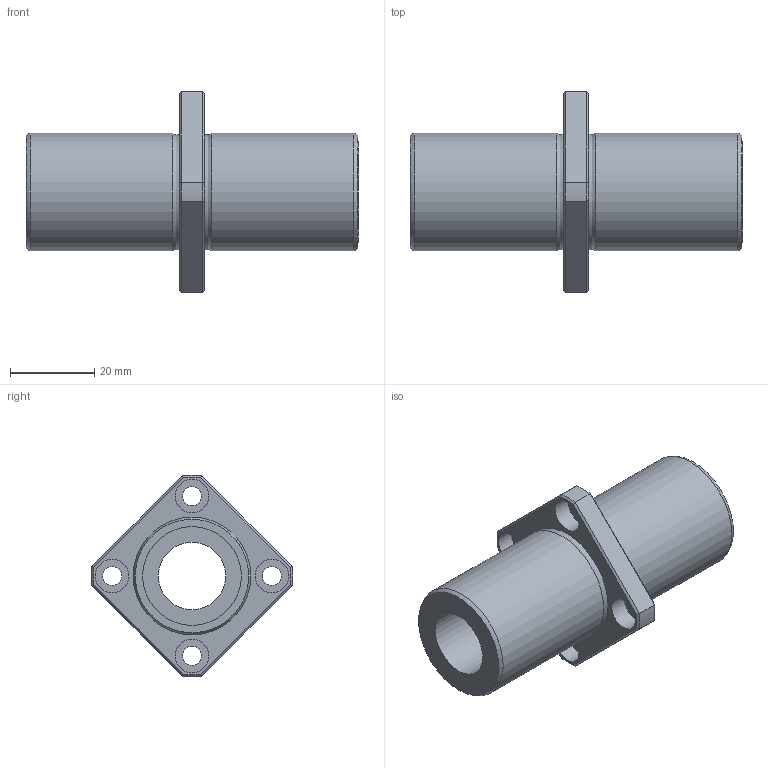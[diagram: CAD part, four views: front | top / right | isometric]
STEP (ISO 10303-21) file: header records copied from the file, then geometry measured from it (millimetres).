
FILE_DESCRIPTION((''),'2;1');
FILE_NAME('D:\製品 (図面)\カタログ用3D\メンテナンスフリー関連\STEP形式\LFDKC-MF\LFDKC16MF.stp','2010-06-01T15:42:06',('Tsuchiya'),(''),'Autodesk Inventor 10','Autodesk Inventor 10','');
FILE_SCHEMA(('AUTOMOTIVE_DESIGN { 1 0 10303 214 1 1 1 1 }'));
Length unit declared in the file: millimetre
Products named in the file (1): LFDKC16MF
Bounding box: 79 x 47.98 x 47.98 mm (x, y, z)
Volume: 35981.5 mm3; surface area: 13843.1 mm2
Topology: 1 solids, 1 shells, 51 faces, 103 edges, 62 vertices
Faces by surface type: plane 22, cylinder 17, cone 8, torus 2, bspline 2
Full cylindrical faces by diameter (mm): 4.5 x4, 8 x4, 16 x1, 23.5 x2, 28 x2
Entity records: 1413 total; most frequent: CARTESIAN_POINT 372, DIRECTION 216, ORIENTED_EDGE 172, AXIS2_PLACEMENT_3D 96, EDGE_CURVE 86, EDGE_LOOP 86, VERTEX_POINT 62, FACE_OUTER_BOUND 51
